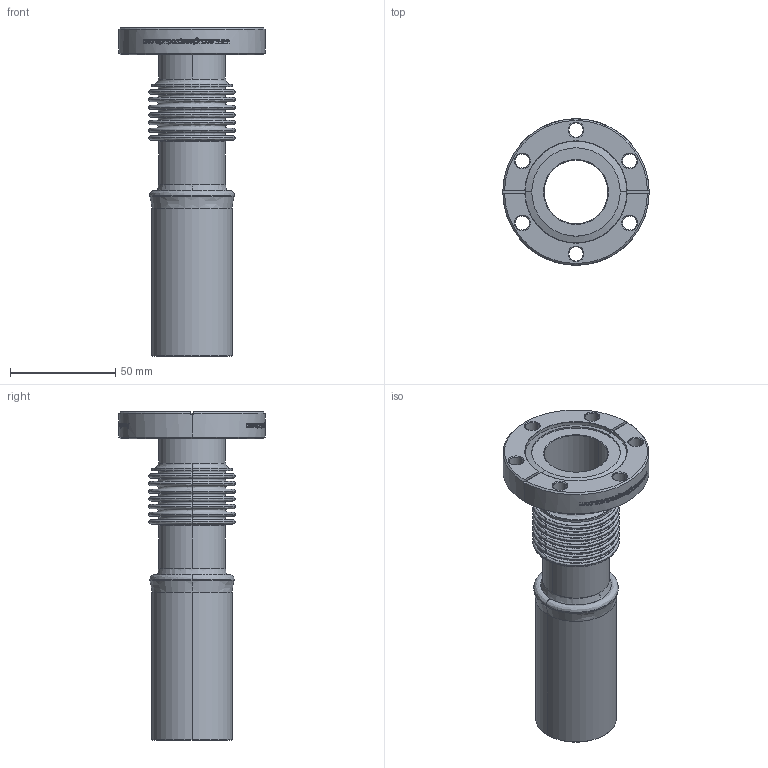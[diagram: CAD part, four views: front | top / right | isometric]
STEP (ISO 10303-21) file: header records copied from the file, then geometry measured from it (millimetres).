
FILE_DESCRIPTION (( 'STEP AP203' ), '1' );
FILE_NAME ('211072.stp', '2018-05-08T21:58:35', ( '' ), ( '' ), 'SwSTEP 2.0', 'SolidWorks 2012', '' );
FILE_SCHEMA (( 'CONFIG_CONTROL_DESIGN' ));
Length unit declared in the file: centimetre
Products named in the file (1): 211072
Bounding box: 69.34 x 69.34 x 155.57 mm (x, y, z)
Volume: 60606.4 mm3; surface area: 56159.2 mm2
Topology: 1 solids, 1 shells, 1021 faces, 2707 edges, 1780 vertices
Faces by surface type: bspline 620, plane 270, cylinder 92, cone 39
Entity records: 77872 total; most frequent: CARTESIAN_POINT 56223, ORIENTED_EDGE 5414, DIRECTION 2877, EDGE_CURVE 2707, VERTEX_POINT 1780, EDGE_LOOP 1127, B_SPLINE_CURVE_WITH_KNOTS 1096, LINE 1029
